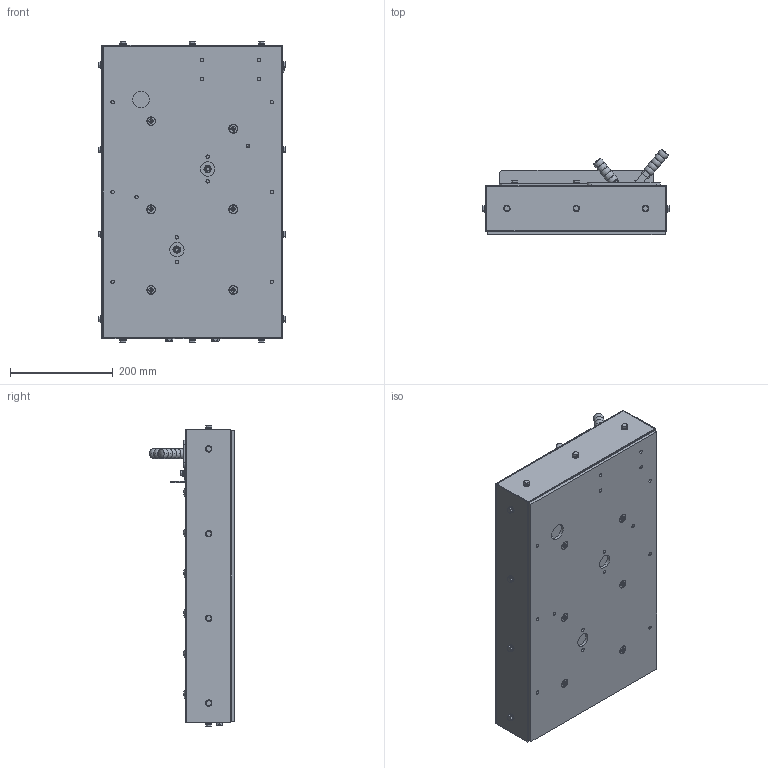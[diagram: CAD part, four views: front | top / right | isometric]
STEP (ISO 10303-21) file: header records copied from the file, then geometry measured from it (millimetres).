
FILE_DESCRIPTION(/* description */ (''),/* implementation_level */ '2;1');
FILE_NAME(/* name */ '',/* time_stamp */ '2025-06-03T11:25:23+09:00',/* author */ ('k-hotta'),/* organization */ (''),/* preprocessor_version */ 'ST-DEVELOPER v20',/* originating_system */ 'Autodesk Inventor 2024',/* authorisation */ '');
FILE_SCHEMA (('AUTOMOTIVE_DESIGN { 1 0 10303 214 3 1 1 }'));
Length unit declared in the file: millimetre
Products named in the file (26): QL-3557型_上レバー; P141-0014; P141-0014_1; P141-0014-004; P141-0014-003; PS0709; P141-0014-002; HPNN50805; P141-0015; P141-0016; 本体サブASSY; HPNN50605; JIS B 1111 - A M8 x 20 - Z; P142-0016; P142-0017; PM1151; Handle; Rivet_³6~12; Grip; JIS B 1181 - 六角ナット - 1 種 
並 M8; PM1153; JIS B 1180 - C M8 x 20; JIS B 1256 - 6.4; JIS B 1251 - No. 2 6; 六角ボルト(ユニクロ4.
8-全ネジ) M6 x 16; 3125AA(HP用)_BALL_ONLY
Assembly tree (125 placements, depth 4):
  QL-3557型_上レバー
    P141-0014
      P141-0014_1
      P141-0014-004
      P141-0014-003
      PS0709  x2
      P141-0014-002  x2
      HPNN50805  x3
    P141-0015
      P141-0016
        本体サブASSY
        HPNN50605  x14
      JIS B 1111 - A M8 x 20 - Z  x6
    P142-0016
    P142-0017
    PM1151
      Handle  x2
      Rivet_³6~12  x3
      Grip  x2
    JIS B 1181 - 六角ナット - 1 種 
並 M8
    JIS B 1251 - No. 2 6  x17
    JIS B 1256 - 6.4  x17
    3125AA(HP用)_BALL_ONLY  x25
    PM1153  x2
    JIS B 1180 - C M8 x 20  x2
    六角ボルト(ユニクロ4.
8-全ネジ) M6 x 16  x17
Bounding box: 365.3 x 165.26 x 586.2 mm (x, y, z)
Volume: 2499241.1 mm3; surface area: 1525146.5 mm2
Topology: 125 solids, 125 shells, 1585 faces, 3637 edges, 2310 vertices
Faces by surface type: plane 762, cone 387, cylinder 314, torus 58, sphere 40, bspline 24
Full cylindrical faces by diameter (mm): 4.917 x14, 6 x24, 6.4 x17, 6.561 x14, 6.647 x22, 7.233 x6, 7.89 x3, 7.9 x14, 8 x25, 8.1 x14, 8.2 x6, 8.5 x2, 8.7 x2, 9 x7, 9.5 x3, 9.6 x3, 12.5 x17, 13.5 x2, 15.8 x6, 24 x24, 28 x2, 32.2 x1
Entity records: 16729 total; most frequent: CARTESIAN_POINT 3608, DIRECTION 2640, ORIENTED_EDGE 2268, EDGE_CURVE 1134, AXIS2_PLACEMENT_3D 1034, VERTEX_POINT 744, EDGE_LOOP 682, LINE 572
